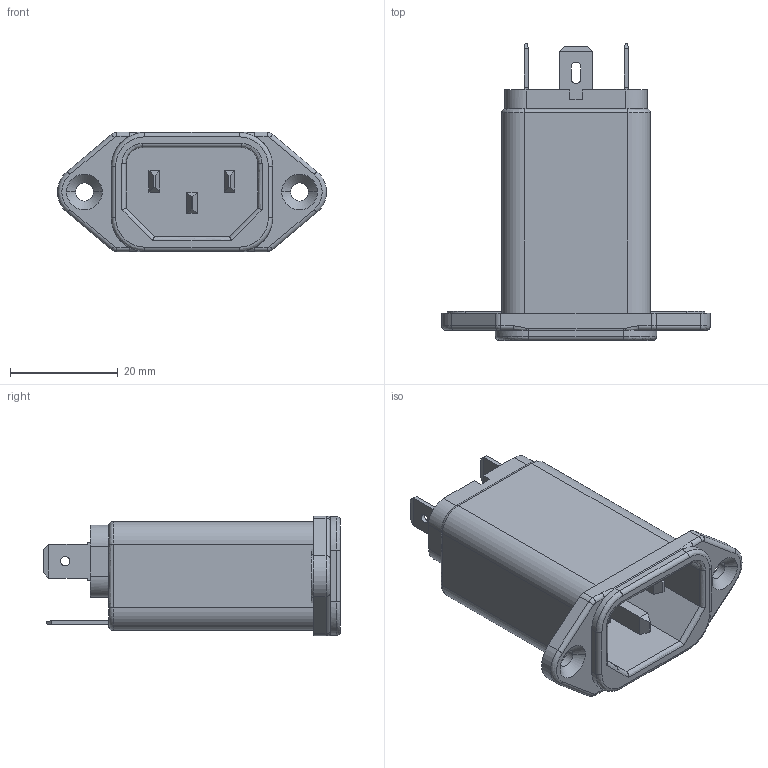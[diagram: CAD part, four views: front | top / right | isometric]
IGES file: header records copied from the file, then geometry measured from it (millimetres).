
Start section:  PTC IGES file: c-6609002-5-b-3d.igs
Global section: file name: c-6609002-5-b-3d.igs; native system: Pro/ENGINEER by Parametric Technology Corporation; preprocessor: 2007390; author: workeradm; organization: Unknown; units: millimetre
Bounding box: 50.01 x 55.24 x 22.23 mm (x, y, z)
Surface area: 14257.3 mm2 (no closed solid volume)
Topology: 0 solids, 0 shells, 309 faces, 1606 edges, 1606 vertices
Faces by surface type: bspline 184, revolution 125
